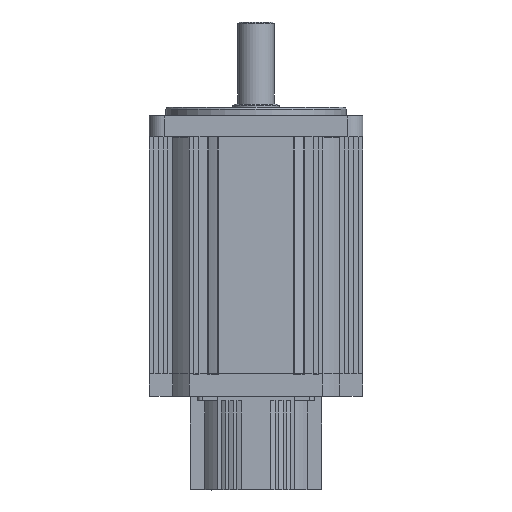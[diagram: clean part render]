
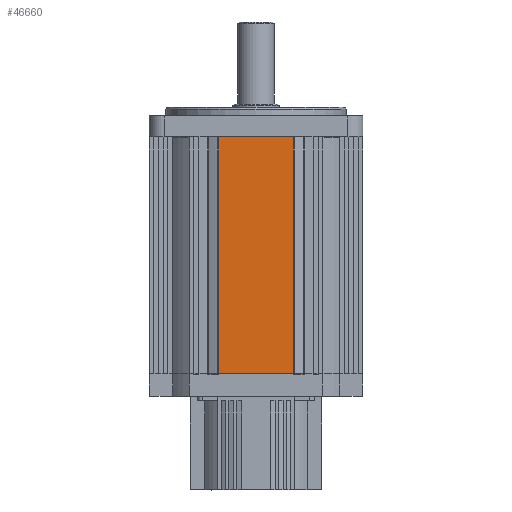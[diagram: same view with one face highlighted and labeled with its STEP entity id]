
A CAD part, front view. The second image highlights one B-rep face of the part: STEP entity #46660.
In plain terms, the highlighted planar face has unit normal (0, -1, 0).
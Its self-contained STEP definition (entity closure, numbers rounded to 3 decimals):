
#3980 = AXIS2_PLACEMENT_3D ( 'NONE', #25726, #82534, #44304 ) ;
#5808 = VERTEX_POINT ( 'NONE', #65483 ) ;
#6957 = VERTEX_POINT ( 'NONE', #18111 ) ;
#8423 = CARTESIAN_POINT ( 'NONE',  ( 23.021, -65., -13. ) ) ;
#12196 = DIRECTION ( 'NONE',  ( 1., 0., 0. ) ) ;
#14629 = DIRECTION ( 'NONE',  ( 0., 0., 1. ) ) ;
#15913 = CARTESIAN_POINT ( 'NONE',  ( -23.021, -65., -157.32 ) ) ;
#16267 = ORIENTED_EDGE ( 'NONE', *, *, #16992, .T. ) ;
#16992 = EDGE_CURVE ( 'NONE', #28086, #6957, #59718, .T. ) ;
#18111 = CARTESIAN_POINT ( 'NONE',  ( 23.021, -65., -13. ) ) ;
#19489 = CARTESIAN_POINT ( 'NONE',  ( -23.021, -65., -13. ) ) ;
#19766 = DIRECTION ( 'NONE',  ( 0., 0., -1. ) ) ;
#20500 = ORIENTED_EDGE ( 'NONE', *, *, #54694, .F. ) ;
#23655 = VECTOR ( 'NONE', #19766, 1000. ) ;
#24812 = LINE ( 'NONE', #37883, #53007 ) ;
#25726 = CARTESIAN_POINT ( 'NONE',  ( -56., -65., -13. ) ) ;
#28086 = VERTEX_POINT ( 'NONE', #50213 ) ;
#29693 = FACE_OUTER_BOUND ( 'NONE', #37233, .T. ) ;
#31142 = DIRECTION ( 'NONE',  ( 1., 0., 0. ) ) ;
#32438 = LINE ( 'NONE', #43727, #66669 ) ;
#32512 = VECTOR ( 'NONE', #14629, 1000. ) ;
#37021 = VERTEX_POINT ( 'NONE', #15913 ) ;
#37233 = EDGE_LOOP ( 'NONE', ( #79634, #59156, #16267, #20500 ) ) ;
#37558 = PLANE ( 'NONE',  #3980 ) ;
#37883 = CARTESIAN_POINT ( 'NONE',  ( -56., -65., -157.32 ) ) ;
#43727 = CARTESIAN_POINT ( 'NONE',  ( -56., -65., -13. ) ) ;
#44304 = DIRECTION ( 'NONE',  ( 0., 0., -1. ) ) ;
#45215 = EDGE_CURVE ( 'NONE', #37021, #28086, #24812, .T. ) ;
#45769 = LINE ( 'NONE', #19489, #23655 ) ;
#46660 = ADVANCED_FACE ( 'NONE', ( #29693 ), #37558, .T. ) ;
#50213 = CARTESIAN_POINT ( 'NONE',  ( 23.021, -65., -157.32 ) ) ;
#53007 = VECTOR ( 'NONE', #31142, 1000. ) ;
#54694 = EDGE_CURVE ( 'NONE', #5808, #6957, #32438, .T. ) ;
#59156 = ORIENTED_EDGE ( 'NONE', *, *, #45215, .T. ) ;
#59718 = LINE ( 'NONE', #8423, #32512 ) ;
#65483 = CARTESIAN_POINT ( 'NONE',  ( -23.021, -65., -13. ) ) ;
#66669 = VECTOR ( 'NONE', #12196, 1000. ) ;
#67409 = EDGE_CURVE ( 'NONE', #5808, #37021, #45769, .T. ) ;
#79634 = ORIENTED_EDGE ( 'NONE', *, *, #67409, .T. ) ;
#82534 = DIRECTION ( 'NONE',  ( 0., -1., 0. ) ) ;
